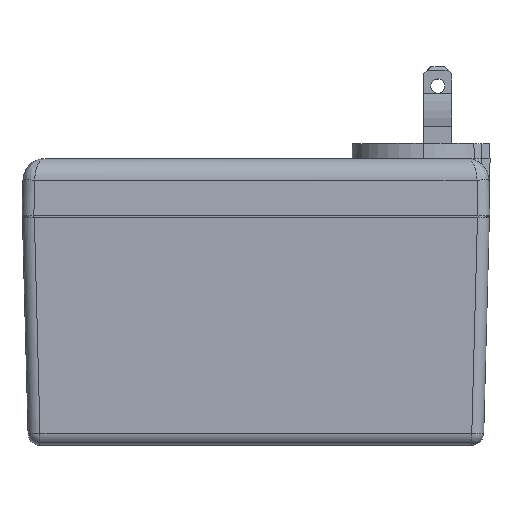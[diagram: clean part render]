
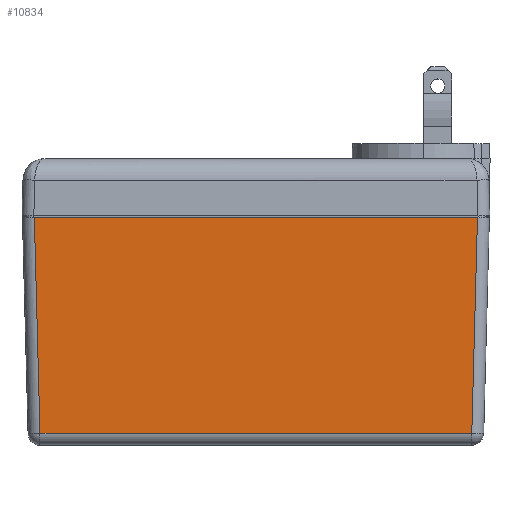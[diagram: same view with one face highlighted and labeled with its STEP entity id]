
A CAD part, top view. The second image highlights one B-rep face of the part: STEP entity #10834.
In plain terms, the highlighted planar face has unit normal (0, -0.026, 1).
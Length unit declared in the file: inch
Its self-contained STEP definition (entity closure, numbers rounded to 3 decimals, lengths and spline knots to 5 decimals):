
#558 = CARTESIAN_POINT ( 'NONE',  ( -1.94954, 0., 1.116 ) ) ;
#566 = CARTESIAN_POINT ( 'NONE',  ( 1.94954, 0., 1.116 ) ) ;
#630 = CARTESIAN_POINT ( 'NONE',  ( -1.89971, -1.90275, 1.06617 ) ) ;
#641 = CARTESIAN_POINT ( 'NONE',  ( 1.89971, -1.90275, 1.06617 ) ) ;
#6526 = VECTOR ( 'NONE', #8916, 39.37008 ) ;
#6527 = LINE ( 'NONE', #8917, #6526 ) ;
#6528 = VECTOR ( 'NONE', #8918, 39.37008 ) ;
#6529 = LINE ( 'NONE', #8919, #6528 ) ;
#6530 = VECTOR ( 'NONE', #8921, 39.37008 ) ;
#6531 = LINE ( 'NONE', #8922, #6530 ) ;
#6556 = LINE ( 'NONE', #8974, #6559 ) ;
#6559 = VECTOR ( 'NONE', #8966, 39.37008 ) ;
#8916 = DIRECTION ( 'NONE',  ( 1., 0., 0. ) ) ;
#8917 = CARTESIAN_POINT ( 'NONE',  ( -2.0545, 0., 1.116 ) ) ;
#8918 = DIRECTION ( 'NONE',  ( 0.026, -0.999, -0.026 ) ) ;
#8919 = CARTESIAN_POINT ( 'NONE',  ( -1.94961, 0.00274, 1.11607 ) ) ;
#8921 = DIRECTION ( 'NONE',  ( 0.026, 0.999, 0.026 ) ) ;
#8922 = CARTESIAN_POINT ( 'NONE',  ( 1.94679, -0.10471, 1.11326 ) ) ;
#8966 = DIRECTION ( 'NONE',  ( 1., 0., 0. ) ) ;
#8974 = CARTESIAN_POINT ( 'NONE',  ( -2.0545, -1.90275, 1.06617 ) ) ;
#9906 = AXIS2_PLACEMENT_3D ( 'NONE', #16995, #16989, #16987 ) ;
#10392 = ORIENTED_EDGE ( 'NONE', *, *, #11622, .T. ) ;
#10394 = ORIENTED_EDGE ( 'NONE', *, *, #11623, .F. ) ;
#10395 = ORIENTED_EDGE ( 'NONE', *, *, #11621, .T. ) ;
#10396 = ORIENTED_EDGE ( 'NONE', *, *, #11607, .T. ) ;
#10834 = ADVANCED_FACE ( 'NONE', ( #18033 ), #16994, .T. ) ;
#11607 = EDGE_CURVE ( 'NONE', #14755, #14751, #6556, .T. ) ;
#11621 = EDGE_CURVE ( 'NONE', #14751, #14775, #6531, .T. ) ;
#11622 = EDGE_CURVE ( 'NONE', #14778, #14755, #6529, .T. ) ;
#11623 = EDGE_CURVE ( 'NONE', #14778, #14775, #6527, .T. ) ;
#13534 = EDGE_LOOP ( 'NONE', ( #10396, #10395, #10394, #10392 ) ) ;
#14751 = VERTEX_POINT ( 'NONE', #641 ) ;
#14755 = VERTEX_POINT ( 'NONE', #630 ) ;
#14775 = VERTEX_POINT ( 'NONE', #566 ) ;
#14778 = VERTEX_POINT ( 'NONE', #558 ) ;
#16987 = DIRECTION ( 'NONE',  ( 0., -1., -0.026 ) ) ;
#16989 = DIRECTION ( 'NONE',  ( 0., -0.026, 1. ) ) ;
#16994 = PLANE ( 'NONE',  #9906 ) ;
#16995 = CARTESIAN_POINT ( 'NONE',  ( -2.0545, 0., 1.116 ) ) ;
#18033 = FACE_OUTER_BOUND ( 'NONE', #13534, .T. ) ;
